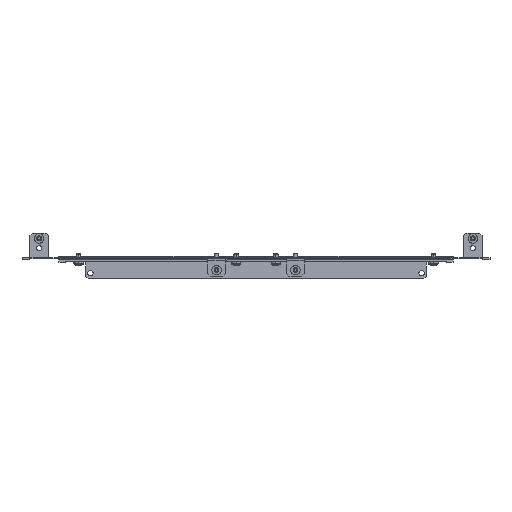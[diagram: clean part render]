
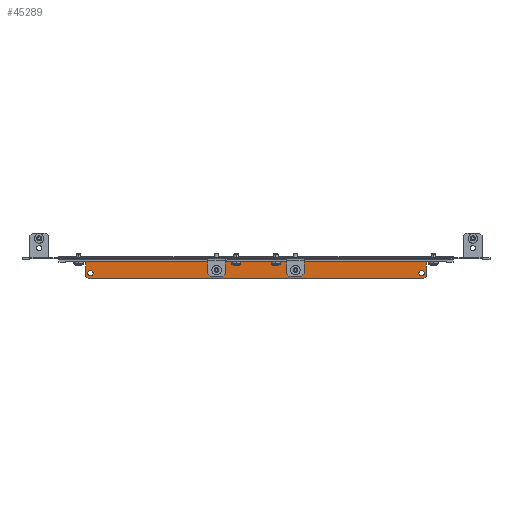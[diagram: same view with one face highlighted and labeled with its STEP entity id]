
A CAD part, left-side view. The second image highlights one B-rep face of the part: STEP entity #45289.
In plain terms, the highlighted planar face has unit normal (-1, 0, 0).
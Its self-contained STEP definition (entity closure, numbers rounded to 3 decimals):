
#191 = CIRCLE ( 'NONE', #42927, 3.45 ) ;
#1728 = DIRECTION ( 'NONE',  ( 0., 0., 1. ) ) ;
#2977 = ORIENTED_EDGE ( 'NONE', *, *, #78736, .F. ) ;
#3128 = LINE ( 'NONE', #38553, #49872 ) ;
#4092 = CARTESIAN_POINT ( 'NONE',  ( 514.25, -216., -4. ) ) ;
#5094 = CARTESIAN_POINT ( 'NONE',  ( 514.25, 213., -25. ) ) ;
#5561 = DIRECTION ( 'NONE',  ( 1., 0., 0. ) ) ;
#5853 = ORIENTED_EDGE ( 'NONE', *, *, #65647, .F. ) ;
#6014 = CARTESIAN_POINT ( 'NONE',  ( 514.25, -216., -25. ) ) ;
#10438 = DIRECTION ( 'NONE',  ( 0., 0., 1. ) ) ;
#10615 = ORIENTED_EDGE ( 'NONE', *, *, #79826, .T. ) ;
#10791 = VECTOR ( 'NONE', #11786, 1000. ) ;
#11357 = LINE ( 'NONE', #60694, #74290 ) ;
#11786 = DIRECTION ( 'NONE',  ( 0., 0., -1. ) ) ;
#12666 = EDGE_CURVE ( 'NONE', #73381, #59559, #39953, .T. ) ;
#12732 = CARTESIAN_POINT ( 'NONE',  ( 514.25, -210., -18.25 ) ) ;
#12758 = CARTESIAN_POINT ( 'NONE',  ( 514.25, 118.25, -119.75 ) ) ;
#13605 = DIRECTION ( 'NONE',  ( 0., -1., 0. ) ) ;
#13653 = VERTEX_POINT ( 'NONE', #22532 ) ;
#16240 = EDGE_LOOP ( 'NONE', ( #68148, #89485 ) ) ;
#18146 = DIRECTION ( 'NONE',  ( 1., 0., 0. ) ) ;
#18639 = CARTESIAN_POINT ( 'NONE',  ( 514.25, 216., -3. ) ) ;
#20791 = CARTESIAN_POINT ( 'NONE',  ( 514.25, 0., -3. ) ) ;
#21361 = DIRECTION ( 'NONE',  ( 0., -0.707, -0.707 ) ) ;
#22532 = CARTESIAN_POINT ( 'NONE',  ( 514.25, 216., -4. ) ) ;
#23093 = VERTEX_POINT ( 'NONE', #5094 ) ;
#23395 = FACE_OUTER_BOUND ( 'NONE', #61512, .T. ) ;
#24304 = VERTEX_POINT ( 'NONE', #56327 ) ;
#26224 = DIRECTION ( 'NONE',  ( 1., 0., 0. ) ) ;
#26265 = CARTESIAN_POINT ( 'NONE',  ( 514.25, -210., -21.7 ) ) ;
#26283 = VERTEX_POINT ( 'NONE', #53715 ) ;
#28388 = EDGE_CURVE ( 'NONE', #78385, #84248, #11357, .T. ) ;
#28666 = EDGE_CURVE ( 'NONE', #30498, #13653, #3128, .T. ) ;
#30112 = DIRECTION ( 'NONE',  ( -1., 0., 0. ) ) ;
#30498 = VERTEX_POINT ( 'NONE', #72806 ) ;
#31122 = CARTESIAN_POINT ( 'NONE',  ( 514.25, 210., -18.25 ) ) ;
#32125 = CARTESIAN_POINT ( 'NONE',  ( 514.25, -216., -22. ) ) ;
#32619 = ORIENTED_EDGE ( 'NONE', *, *, #28388, .T. ) ;
#32939 = VECTOR ( 'NONE', #21361, 1000. ) ;
#33920 = CIRCLE ( 'NONE', #87413, 3.45 ) ;
#34123 = LINE ( 'NONE', #34613, #72264 ) ;
#34613 = CARTESIAN_POINT ( 'NONE',  ( 514.25, 216., -25. ) ) ;
#36064 = EDGE_CURVE ( 'NONE', #24304, #75356, #191, .T. ) ;
#36340 = PLANE ( 'NONE',  #76713 ) ;
#37285 = FACE_BOUND ( 'NONE', #16240, .T. ) ;
#38550 = CARTESIAN_POINT ( 'NONE',  ( 514.25, 210., -14.8 ) ) ;
#38553 = CARTESIAN_POINT ( 'NONE',  ( 514.25, 216., -3. ) ) ;
#39371 = VERTEX_POINT ( 'NONE', #62503 ) ;
#39953 = CIRCLE ( 'NONE', #70501, 3.45 ) ;
#42374 = LINE ( 'NONE', #6014, #10791 ) ;
#42927 = AXIS2_PLACEMENT_3D ( 'NONE', #89480, #18146, #89942 ) ;
#43035 = DIRECTION ( 'NONE',  ( 0., 1., 0. ) ) ;
#44129 = ORIENTED_EDGE ( 'NONE', *, *, #73966, .T. ) ;
#45289 = ADVANCED_FACE ( 'NONE', ( #37285, #51171, #23395 ), #36340, .T. ) ;
#48200 = CARTESIAN_POINT ( 'NONE',  ( 514.25, 216., -1.5 ) ) ;
#48703 = VECTOR ( 'NONE', #13605, 1000. ) ;
#49872 = VECTOR ( 'NONE', #1728, 1000. ) ;
#51171 = FACE_BOUND ( 'NONE', #71770, .T. ) ;
#53715 = CARTESIAN_POINT ( 'NONE',  ( 514.25, -216., -4. ) ) ;
#54703 = EDGE_CURVE ( 'NONE', #59559, #73381, #33920, .T. ) ;
#56327 = CARTESIAN_POINT ( 'NONE',  ( 514.25, 210., -21.7 ) ) ;
#59559 = VERTEX_POINT ( 'NONE', #94639 ) ;
#60694 = CARTESIAN_POINT ( 'NONE',  ( 514.25, -118.25, -119.75 ) ) ;
#61512 = EDGE_LOOP ( 'NONE', ( #92061, #32619, #5853, #10615, #2977, #64748, #63376, #44129 ) ) ;
#62503 = CARTESIAN_POINT ( 'NONE',  ( 514.25, -216., -3. ) ) ;
#63376 = ORIENTED_EDGE ( 'NONE', *, *, #28666, .F. ) ;
#64748 = ORIENTED_EDGE ( 'NONE', *, *, #92455, .F. ) ;
#65647 = EDGE_CURVE ( 'NONE', #26283, #84248, #42374, .T. ) ;
#65664 = VECTOR ( 'NONE', #68711, 1000. ) ;
#66972 = CARTESIAN_POINT ( 'NONE',  ( 514.25, 0., -1.5 ) ) ;
#68132 = VERTEX_POINT ( 'NONE', #18639 ) ;
#68148 = ORIENTED_EDGE ( 'NONE', *, *, #12666, .T. ) ;
#68711 = DIRECTION ( 'NONE',  ( 0., 0., 1. ) ) ;
#69218 = CIRCLE ( 'NONE', #82962, 3.45 ) ;
#69593 = EDGE_CURVE ( 'NONE', #78385, #23093, #34123, .T. ) ;
#69649 = LINE ( 'NONE', #4092, #65664 ) ;
#69752 = DIRECTION ( 'NONE',  ( 0., -0.707, 0.707 ) ) ;
#70501 = AXIS2_PLACEMENT_3D ( 'NONE', #12732, #5561, #84997 ) ;
#71770 = EDGE_LOOP ( 'NONE', ( #80654, #81607 ) ) ;
#72264 = VECTOR ( 'NONE', #78178, 1000. ) ;
#72806 = CARTESIAN_POINT ( 'NONE',  ( 514.25, 216., -22. ) ) ;
#73381 = VERTEX_POINT ( 'NONE', #26265 ) ;
#73966 = EDGE_CURVE ( 'NONE', #30498, #23093, #85023, .T. ) ;
#74290 = VECTOR ( 'NONE', #69752, 1000. ) ;
#75356 = VERTEX_POINT ( 'NONE', #38550 ) ;
#76713 = AXIS2_PLACEMENT_3D ( 'NONE', #66972, #30112, #43035 ) ;
#78178 = DIRECTION ( 'NONE',  ( 0., 1., 0. ) ) ;
#78385 = VERTEX_POINT ( 'NONE', #80704 ) ;
#78409 = DIRECTION ( 'NONE',  ( 0., 0., -1. ) ) ;
#78736 = EDGE_CURVE ( 'NONE', #68132, #39371, #92568, .T. ) ;
#79826 = EDGE_CURVE ( 'NONE', #26283, #39371, #69649, .T. ) ;
#80654 = ORIENTED_EDGE ( 'NONE', *, *, #36064, .T. ) ;
#80704 = CARTESIAN_POINT ( 'NONE',  ( 514.25, -213., -25. ) ) ;
#80988 = VECTOR ( 'NONE', #10438, 1000. ) ;
#81607 = ORIENTED_EDGE ( 'NONE', *, *, #85611, .T. ) ;
#82962 = AXIS2_PLACEMENT_3D ( 'NONE', #31122, #89038, #88578 ) ;
#84248 = VERTEX_POINT ( 'NONE', #32125 ) ;
#84997 = DIRECTION ( 'NONE',  ( 0., 0., -1. ) ) ;
#85023 = LINE ( 'NONE', #12758, #32939 ) ;
#85046 = LINE ( 'NONE', #48200, #80988 ) ;
#85611 = EDGE_CURVE ( 'NONE', #75356, #24304, #69218, .T. ) ;
#87413 = AXIS2_PLACEMENT_3D ( 'NONE', #92738, #26224, #78409 ) ;
#88578 = DIRECTION ( 'NONE',  ( 0., 0., -1. ) ) ;
#89038 = DIRECTION ( 'NONE',  ( 1., 0., 0. ) ) ;
#89480 = CARTESIAN_POINT ( 'NONE',  ( 514.25, 210., -18.25 ) ) ;
#89485 = ORIENTED_EDGE ( 'NONE', *, *, #54703, .T. ) ;
#89942 = DIRECTION ( 'NONE',  ( 0., 0., -1. ) ) ;
#92061 = ORIENTED_EDGE ( 'NONE', *, *, #69593, .F. ) ;
#92455 = EDGE_CURVE ( 'NONE', #13653, #68132, #85046, .T. ) ;
#92568 = LINE ( 'NONE', #20791, #48703 ) ;
#92738 = CARTESIAN_POINT ( 'NONE',  ( 514.25, -210., -18.25 ) ) ;
#94639 = CARTESIAN_POINT ( 'NONE',  ( 514.25, -210., -14.8 ) ) ;
